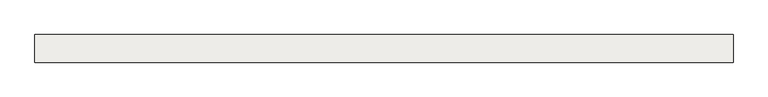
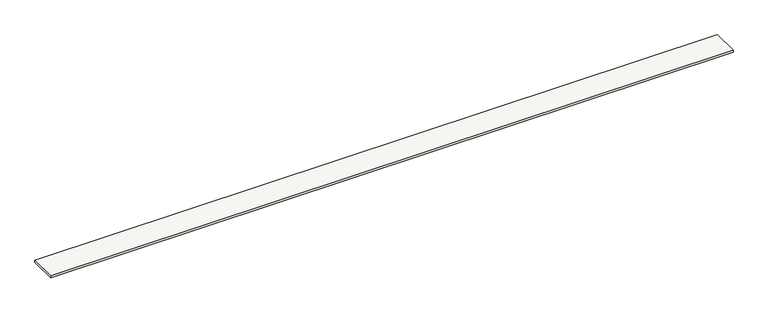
"""IFC4 building model written with IfcOpenShell, lengths in millimetres: slab geometry, Sol-02 - Tablette bois 2cm."""

from ifc_helpers import new_model, si_unit, origin, origin_with_axes, place, context, project, spatial, polyline, outline, extrude, source, transform, mapped, element, save


def slab_138518f2(model_context):
    return source(origin(), model_context, "Body", "SweptSolid", [
        extrude(outline(polyline([(64542.0000201, 0.0), (64542.0000201, 300.0), (72116.4999483, 300.0), (72116.4999483, 0.0), (64542.0000201, 0.0)])), origin_with_axes(), (0.0, 0.0, 1.0), 20.0),
    ])


if __name__ == "__main__":
    model = new_model("IFC4")
    model_context = context("Model", 3, world=origin())
    ifc_project = project(units=[si_unit("LENGTHUNIT", "METRE", prefix="MILLI")], contexts=[model_context])
    site = spatial("IfcSite", under=ifc_project)
    building = spatial("IfcBuilding", under=site)
    placement = place(None, origin())
    slab_shape = slab_138518f2(model_context)
    element("IfcSlab", 1, ObjectType="Sol-02 - Tablette bois 2cm", at=placement, inside=building, context=model_context, shape_type="MappedRepresentation", body=[
        mapped(slab_shape, transform((0.0, 0.0, 0.0), x_axis=(1.0, 0.0, 0.0), y_axis=(0.0, 1.0, 0.0), z_axis=(0.0, 0.0, 1.0))),
    ])
    save(model, "model.ifc")
